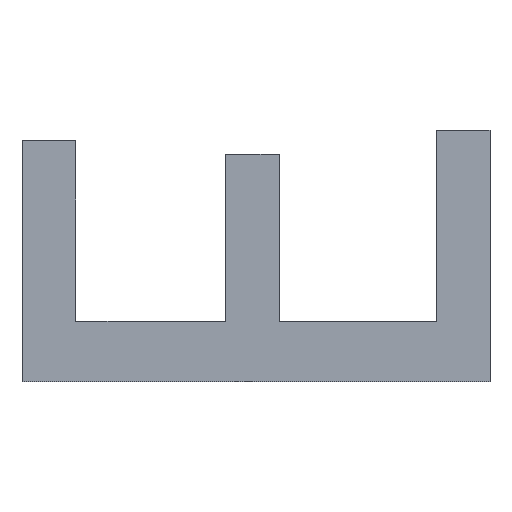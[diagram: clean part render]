
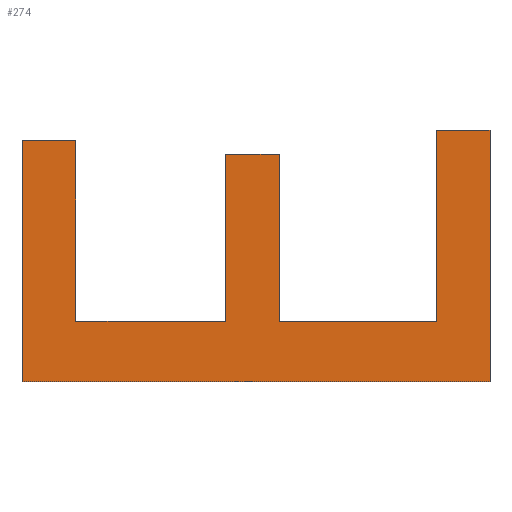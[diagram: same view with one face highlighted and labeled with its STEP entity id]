
A CAD part, top view. The second image highlights one B-rep face of the part: STEP entity #274.
In plain terms, the highlighted planar face has unit normal (0, 0, 1).
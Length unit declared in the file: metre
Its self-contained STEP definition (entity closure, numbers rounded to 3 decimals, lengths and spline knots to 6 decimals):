
#24=ORIENTED_EDGE('',*,*,#96,.T.);
#25=ORIENTED_EDGE('',*,*,#97,.T.);
#26=ORIENTED_EDGE('',*,*,#98,.T.);
#27=ORIENTED_EDGE('',*,*,#99,.T.);
#28=ORIENTED_EDGE('',*,*,#100,.T.);
#29=ORIENTED_EDGE('',*,*,#101,.T.);
#30=ORIENTED_EDGE('',*,*,#102,.T.);
#31=ORIENTED_EDGE('',*,*,#103,.T.);
#32=ORIENTED_EDGE('',*,*,#104,.T.);
#33=ORIENTED_EDGE('',*,*,#105,.T.);
#34=ORIENTED_EDGE('',*,*,#106,.T.);
#35=ORIENTED_EDGE('',*,*,#107,.T.);
#96=EDGE_CURVE('',#132,#133,#156,.T.);
#97=EDGE_CURVE('',#133,#134,#157,.T.);
#98=EDGE_CURVE('',#134,#135,#158,.T.);
#99=EDGE_CURVE('',#135,#136,#159,.T.);
#100=EDGE_CURVE('',#136,#137,#160,.T.);
#101=EDGE_CURVE('',#137,#138,#161,.T.);
#102=EDGE_CURVE('',#138,#139,#162,.T.);
#103=EDGE_CURVE('',#139,#140,#163,.T.);
#104=EDGE_CURVE('',#140,#141,#164,.T.);
#105=EDGE_CURVE('',#141,#142,#165,.T.);
#106=EDGE_CURVE('',#142,#143,#166,.T.);
#107=EDGE_CURVE('',#143,#132,#167,.T.);
#132=VERTEX_POINT('',#492);
#133=VERTEX_POINT('',#493);
#134=VERTEX_POINT('',#495);
#135=VERTEX_POINT('',#497);
#136=VERTEX_POINT('',#499);
#137=VERTEX_POINT('',#501);
#138=VERTEX_POINT('',#503);
#139=VERTEX_POINT('',#505);
#140=VERTEX_POINT('',#507);
#141=VERTEX_POINT('',#509);
#142=VERTEX_POINT('',#511);
#143=VERTEX_POINT('',#513);
#156=LINE('',#491,#192);
#157=LINE('',#494,#193);
#158=LINE('',#496,#194);
#159=LINE('',#498,#195);
#160=LINE('',#500,#196);
#161=LINE('',#502,#197);
#162=LINE('',#504,#198);
#163=LINE('',#506,#199);
#164=LINE('',#508,#200);
#165=LINE('',#510,#201);
#166=LINE('',#512,#202);
#167=LINE('',#514,#203);
#192=VECTOR('',#416,1.);
#193=VECTOR('',#417,1.);
#194=VECTOR('',#418,1.);
#195=VECTOR('',#419,1.);
#196=VECTOR('',#420,1.);
#197=VECTOR('',#421,1.);
#198=VECTOR('',#422,1.);
#199=VECTOR('',#423,1.);
#200=VECTOR('',#424,1.);
#201=VECTOR('',#425,1.);
#202=VECTOR('',#426,1.);
#203=VECTOR('',#427,1.);
#217=EDGE_LOOP('',(#24,#25,#26,#27,#28,#29,#30,#31,#32,#33,#34,#35));
#231=FACE_BOUND('',#217,.T.);
#245=PLANE('',#385);
#274=ADVANCED_FACE('',(#231),#245,.F.);
#385=AXIS2_PLACEMENT_3D('',#490,#414,#415);
#414=DIRECTION('',(0.,0.,-1.));
#415=DIRECTION('',(1.,0.,0.));
#416=DIRECTION('',(-1.,0.,0.));
#417=DIRECTION('',(0.,-1.,0.));
#418=DIRECTION('',(-1.,0.,0.));
#419=DIRECTION('',(0.,1.,0.));
#420=DIRECTION('',(-1.,0.,0.));
#421=DIRECTION('',(0.,-1.,0.));
#422=DIRECTION('',(-1.,0.,0.));
#423=DIRECTION('',(0.,1.,0.));
#424=DIRECTION('',(-1.,0.,0.));
#425=DIRECTION('',(0.,-1.,0.));
#426=DIRECTION('',(1.,0.,0.));
#427=DIRECTION('',(0.,1.,0.));
#490=CARTESIAN_POINT('',(-0.12041,-0.034934,0.01125));
#491=CARTESIAN_POINT('',(-0.121547,-0.032489,0.01125));
#492=CARTESIAN_POINT('',(-0.121533,-0.032489,0.01125));
#493=CARTESIAN_POINT('',(-0.121547,-0.032489,0.01125));
#494=CARTESIAN_POINT('',(-0.121547,-0.032539,0.01125));
#495=CARTESIAN_POINT('',(-0.121547,-0.032539,0.01125));
#496=CARTESIAN_POINT('',(-0.121588,-0.032539,0.01125));
#497=CARTESIAN_POINT('',(-0.121588,-0.032539,0.01125));
#498=CARTESIAN_POINT('',(-0.121588,-0.032495,0.01125));
#499=CARTESIAN_POINT('',(-0.121588,-0.032495,0.01125));
#500=CARTESIAN_POINT('',(-0.121602,-0.032495,0.01125));
#501=CARTESIAN_POINT('',(-0.121602,-0.032495,0.01125));
#502=CARTESIAN_POINT('',(-0.121602,-0.032539,0.01125));
#503=CARTESIAN_POINT('',(-0.121602,-0.032539,0.01125));
#504=CARTESIAN_POINT('',(-0.121641,-0.032539,0.01125));
#505=CARTESIAN_POINT('',(-0.121641,-0.032539,0.01125));
#506=CARTESIAN_POINT('',(-0.121641,-0.032492,0.01125));
#507=CARTESIAN_POINT('',(-0.121641,-0.032492,0.01125));
#508=CARTESIAN_POINT('',(-0.121655,-0.032492,0.01125));
#509=CARTESIAN_POINT('',(-0.121655,-0.032492,0.01125));
#510=CARTESIAN_POINT('',(-0.121655,-0.032555,0.01125));
#511=CARTESIAN_POINT('',(-0.121655,-0.032555,0.01125));
#512=CARTESIAN_POINT('',(-0.121533,-0.032555,0.01125));
#513=CARTESIAN_POINT('',(-0.121533,-0.032555,0.01125));
#514=CARTESIAN_POINT('',(-0.121533,-0.032489,0.01125));
